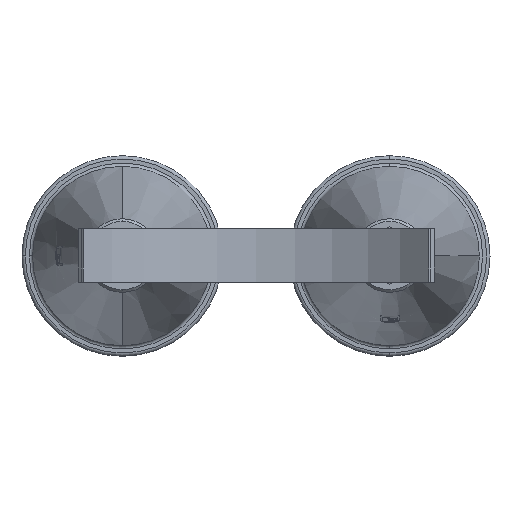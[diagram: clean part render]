
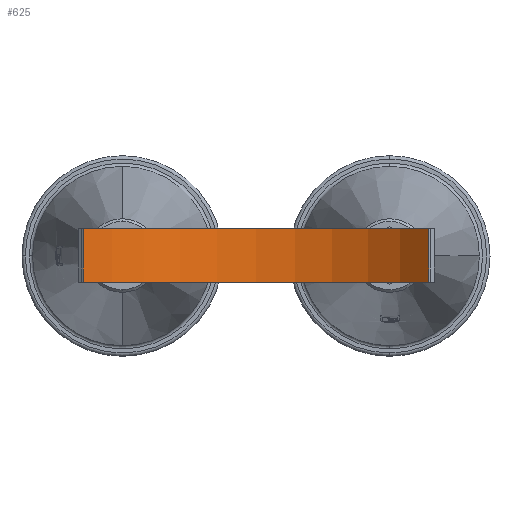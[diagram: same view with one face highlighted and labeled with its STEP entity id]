
A CAD part, top view. The second image highlights one B-rep face of the part: STEP entity #625.
In plain terms, the highlighted cylindrical face has radius 351 mm (diameter 702 mm), a partial arc.
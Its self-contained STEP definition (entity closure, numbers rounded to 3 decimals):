
#625=ADVANCED_FACE('',(#1252),#1253,.F.);
#1252=FACE_OUTER_BOUND('',#1936,.T.);
#1253=CYLINDRICAL_SURFACE('',#1937,351.);
#1936=EDGE_LOOP('',(#3457,#3458,#3459,#3460));
#1937=AXIS2_PLACEMENT_3D('',#3461,#3462,#3463);
#3457=ORIENTED_EDGE('',*,*,#4398,.T.);
#3458=ORIENTED_EDGE('',*,*,#4399,.F.);
#3459=ORIENTED_EDGE('',*,*,#4400,.F.);
#3460=ORIENTED_EDGE('',*,*,#4395,.T.);
#3461=CARTESIAN_POINT('',(445.681,513.669,504.704));
#3462=DIRECTION('',(0.,-1.0,0.));
#3463=DIRECTION('',(1.0,0.,0.));
#4395=EDGE_CURVE('',#5334,#5332,#5335,.T.);
#4398=EDGE_CURVE('',#5332,#5338,#5339,.T.);
#4399=EDGE_CURVE('',#5340,#5338,#5341,.T.);
#4400=EDGE_CURVE('',#5334,#5340,#5342,.T.);
#5332=VERTEX_POINT('',#7536);
#5334=VERTEX_POINT('',#7539);
#5335=LINE('',#7540,#7541);
#5338=VERTEX_POINT('',#7545);
#5339=CIRCLE('',#7546,351.);
#5340=VERTEX_POINT('',#7547);
#5341=LINE('',#7548,#7549);
#5342=CIRCLE('',#7550,351.);
#7536=CARTESIAN_POINT('',(187.232,433.669,267.206));
#7539=CARTESIAN_POINT('',(187.232,513.669,267.206));
#7540=CARTESIAN_POINT('',(187.232,513.669,267.206));
#7541=VECTOR('',#8744,1.0);
#7545=CARTESIAN_POINT('',(703.932,433.669,266.991));
#7546=AXIS2_PLACEMENT_3D('',#8746,#8747,#8748);
#7547=CARTESIAN_POINT('',(703.932,513.669,266.991));
#7548=CARTESIAN_POINT('',(703.932,513.669,266.991));
#7549=VECTOR('',#8749,1.0);
#7550=AXIS2_PLACEMENT_3D('',#8750,#8751,#8752);
#8744=DIRECTION('',(0.,-1.0,0.));
#8746=CARTESIAN_POINT('',(445.681,433.669,504.704));
#8747=DIRECTION('',(0.,-1.0,0.));
#8748=DIRECTION('',(1.0,0.,0.));
#8749=DIRECTION('',(0.,-1.0,0.));
#8750=CARTESIAN_POINT('',(445.681,513.669,504.704));
#8751=DIRECTION('',(0.,-1.0,0.));
#8752=DIRECTION('',(1.0,0.,0.));
